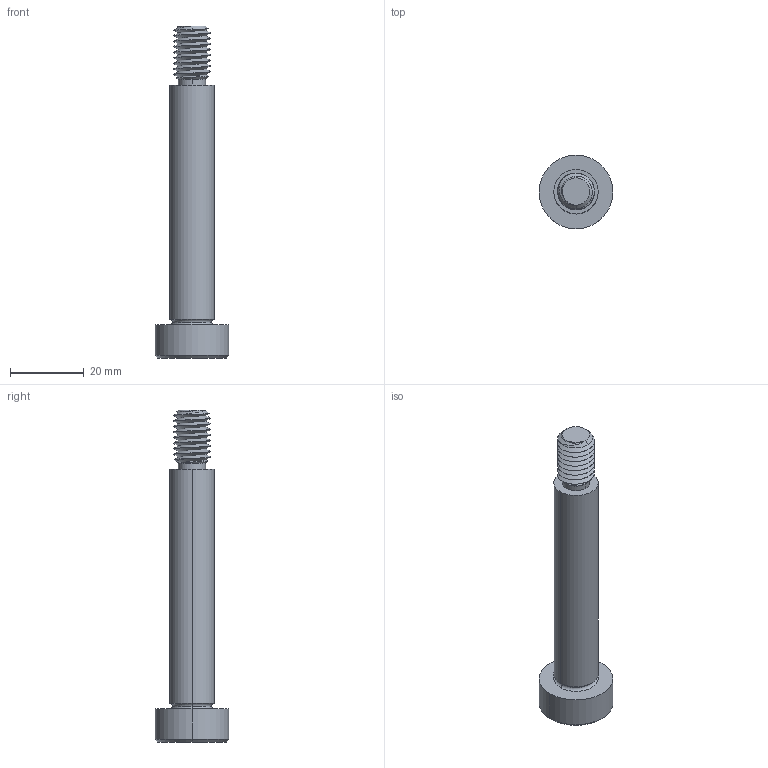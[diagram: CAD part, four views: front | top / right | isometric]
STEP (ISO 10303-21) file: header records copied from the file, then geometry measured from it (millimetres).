
FILE_DESCRIPTION (( 'STEP AP203' ), '1' );
FILE_NAME ('P0130.120-065-B2.step', '2021-11-09T22:09:18', ( '' ), ( '' ), 'SwSTEP 2.0', 'SolidWorks 2019', '' );
FILE_SCHEMA (( 'CONFIG_CONTROL_DESIGN' ));
Length unit declared in the file: millimetre
Products named in the file (1): P0130.120-065-B2
Bounding box: 20 x 20 x 90 mm (x, y, z)
Volume: 10840.3 mm3; surface area: 4570.5 mm2
Topology: 1 solids, 1 shells, 60 faces, 142 edges, 85 vertices
Faces by surface type: cylinder 23, plane 16, cone 15, torus 4, bspline 2
Entity records: 3534 total; most frequent: CARTESIAN_POINT 2187, ORIENTED_EDGE 280, DIRECTION 247, EDGE_CURVE 140, AXIS2_PLACEMENT_3D 99, VERTEX_POINT 85, EDGE_LOOP 63, FACE_OUTER_BOUND 60
